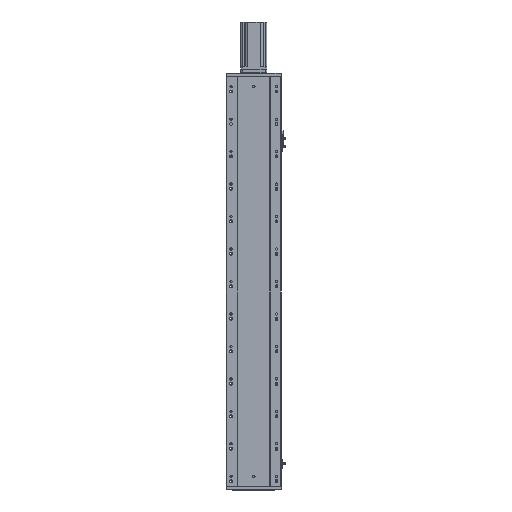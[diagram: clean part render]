
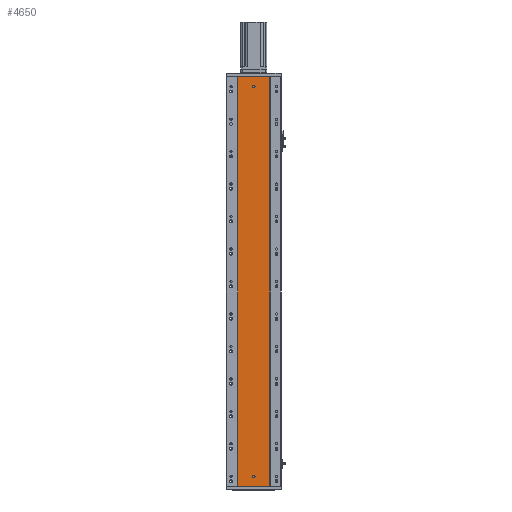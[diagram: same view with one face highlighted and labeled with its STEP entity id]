
A CAD part, front view. The second image highlights one B-rep face of the part: STEP entity #4650.
In plain terms, the highlighted planar face has unit normal (0, -1, 0).
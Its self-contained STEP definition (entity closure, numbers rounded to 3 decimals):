
#2745 = VERTEX_POINT ( 'NONE', #76845 ) ;
#3261 = CARTESIAN_POINT ( 'NONE',  ( 86.97, 79.476, 1260. ) ) ;
#3300 = CARTESIAN_POINT ( 'NONE',  ( 0., 79.476, 1260. ) ) ;
#3871 = FACE_BOUND ( 'NONE', #66117, .T. ) ;
#4146 = PLANE ( 'NONE',  #13286 ) ;
#4294 = CIRCLE ( 'NONE', #6894, 4. ) ;
#4569 = CARTESIAN_POINT ( 'NONE',  ( 136.47, 79.476, 1230. ) ) ;
#4650 = ADVANCED_FACE ( 'NONE', ( #30077, #3871, #28218 ), #4146, .F. ) ;
#5230 = DIRECTION ( 'NONE',  ( 0., 0., -1. ) ) ;
#5737 = VERTEX_POINT ( 'NONE', #62384 ) ;
#6894 = AXIS2_PLACEMENT_3D ( 'NONE', #4569, #53346, #17546 ) ;
#8898 = CARTESIAN_POINT ( 'NONE',  ( 185.97, 79.476, 1260. ) ) ;
#10170 = B_SPLINE_CURVE_WITH_KNOTS ( 'NONE', 3,
 ( #3261, #15177, #57009, #21213 ),
 .UNSPECIFIED., .F., .F.,
 ( 4, 4 ),
 ( 0., 1. ),
 .UNSPECIFIED. ) ;
#10299 = VERTEX_POINT ( 'NONE', #30842 ) ;
#10937 = VERTEX_POINT ( 'NONE', #38792 ) ;
#11414 = VERTEX_POINT ( 'NONE', #49694 ) ;
#11542 = CIRCLE ( 'NONE', #12904, 4. ) ;
#12321 = CIRCLE ( 'NONE', #36816, 4. ) ;
#12904 = AXIS2_PLACEMENT_3D ( 'NONE', #35477, #70953, #5230 ) ;
#13286 = AXIS2_PLACEMENT_3D ( 'NONE', #45187, #50878, #20816 ) ;
#14093 = ORIENTED_EDGE ( 'NONE', *, *, #37556, .F. ) ;
#15177 = CARTESIAN_POINT ( 'NONE',  ( 86.97, 79.476, 840. ) ) ;
#15286 = AXIS2_PLACEMENT_3D ( 'NONE', #71986, #24529, #36280 ) ;
#16599 = EDGE_CURVE ( 'NONE', #27109, #2745, #4294, .T. ) ;
#17546 = DIRECTION ( 'NONE',  ( 0., 0., -1. ) ) ;
#18337 = DIRECTION ( 'NONE',  ( 0., -1., 0. ) ) ;
#18852 = ORIENTED_EDGE ( 'NONE', *, *, #20192, .F. ) ;
#19764 = EDGE_LOOP ( 'NONE', ( #26753, #18852, #30785, #57829 ) ) ;
#20192 = EDGE_CURVE ( 'NONE', #10937, #53293, #40108, .T. ) ;
#20816 = DIRECTION ( 'NONE',  ( 0., 0., 1. ) ) ;
#21213 = CARTESIAN_POINT ( 'NONE',  ( 86.97, 79.476, 0. ) ) ;
#22703 = ORIENTED_EDGE ( 'NONE', *, *, #27080, .F. ) ;
#23423 = VECTOR ( 'NONE', #73498, 1000. ) ;
#23859 = EDGE_CURVE ( 'NONE', #10299, #10937, #58838, .T. ) ;
#24529 = DIRECTION ( 'NONE',  ( 0., -1., 0. ) ) ;
#25279 = EDGE_LOOP ( 'NONE', ( #14093, #51770 ) ) ;
#26753 = ORIENTED_EDGE ( 'NONE', *, *, #77381, .T. ) ;
#27080 = EDGE_CURVE ( 'NONE', #5737, #49287, #42295, .T. ) ;
#27109 = VERTEX_POINT ( 'NONE', #55843 ) ;
#28218 = FACE_OUTER_BOUND ( 'NONE', #19764, .T. ) ;
#30077 = FACE_BOUND ( 'NONE', #25279, .T. ) ;
#30785 = ORIENTED_EDGE ( 'NONE', *, *, #23859, .F. ) ;
#30842 = CARTESIAN_POINT ( 'NONE',  ( 86.97, 79.476, 1260. ) ) ;
#31642 = CARTESIAN_POINT ( 'NONE',  ( 185.97, 79.476, 840. ) ) ;
#32276 = ORIENTED_EDGE ( 'NONE', *, *, #70862, .F. ) ;
#32706 = VECTOR ( 'NONE', #58315, 1000. ) ;
#35477 = CARTESIAN_POINT ( 'NONE',  ( 136.47, 79.476, 1230. ) ) ;
#35858 = DIRECTION ( 'NONE',  ( 0., 0., -1. ) ) ;
#36280 = DIRECTION ( 'NONE',  ( 0., 0., -1. ) ) ;
#36816 = AXIS2_PLACEMENT_3D ( 'NONE', #71581, #18337, #35858 ) ;
#37556 = EDGE_CURVE ( 'NONE', #2745, #27109, #11542, .T. ) ;
#38792 = CARTESIAN_POINT ( 'NONE',  ( 185.97, 79.476, 1260. ) ) ;
#38943 = CARTESIAN_POINT ( 'NONE',  ( 136.47, 79.476, 26. ) ) ;
#40108 = B_SPLINE_CURVE_WITH_KNOTS ( 'NONE', 3,
 ( #8898, #31642, #73584, #43709 ),
 .UNSPECIFIED., .F., .F.,
 ( 4, 4 ),
 ( 0., 1. ),
 .UNSPECIFIED. ) ;
#42295 = CIRCLE ( 'NONE', #15286, 4. ) ;
#43709 = CARTESIAN_POINT ( 'NONE',  ( 185.97, 79.476, 0. ) ) ;
#44103 = CARTESIAN_POINT ( 'NONE',  ( 0., 79.476, 0. ) ) ;
#45187 = CARTESIAN_POINT ( 'NONE',  ( 0., 79.476, 1260. ) ) ;
#45997 = LINE ( 'NONE', #44103, #23423 ) ;
#49287 = VERTEX_POINT ( 'NONE', #38943 ) ;
#49694 = CARTESIAN_POINT ( 'NONE',  ( 86.97, 79.476, 0. ) ) ;
#50407 = CARTESIAN_POINT ( 'NONE',  ( 185.97, 79.476, 0. ) ) ;
#50878 = DIRECTION ( 'NONE',  ( 0., 1., 0. ) ) ;
#51770 = ORIENTED_EDGE ( 'NONE', *, *, #16599, .F. ) ;
#53293 = VERTEX_POINT ( 'NONE', #50407 ) ;
#53346 = DIRECTION ( 'NONE',  ( 0., -1., 0. ) ) ;
#55843 = CARTESIAN_POINT ( 'NONE',  ( 136.47, 79.476, 1234. ) ) ;
#57009 = CARTESIAN_POINT ( 'NONE',  ( 86.97, 79.476, 420. ) ) ;
#57829 = ORIENTED_EDGE ( 'NONE', *, *, #60200, .T. ) ;
#58315 = DIRECTION ( 'NONE',  ( 1., 0., 0. ) ) ;
#58838 = LINE ( 'NONE', #3300, #32706 ) ;
#60200 = EDGE_CURVE ( 'NONE', #10299, #11414, #10170, .T. ) ;
#62384 = CARTESIAN_POINT ( 'NONE',  ( 136.47, 79.476, 34. ) ) ;
#66117 = EDGE_LOOP ( 'NONE', ( #32276, #22703 ) ) ;
#70862 = EDGE_CURVE ( 'NONE', #49287, #5737, #12321, .T. ) ;
#70953 = DIRECTION ( 'NONE',  ( 0., -1., 0. ) ) ;
#71581 = CARTESIAN_POINT ( 'NONE',  ( 136.47, 79.476, 30. ) ) ;
#71986 = CARTESIAN_POINT ( 'NONE',  ( 136.47, 79.476, 30. ) ) ;
#73498 = DIRECTION ( 'NONE',  ( 1., 0., 0. ) ) ;
#73584 = CARTESIAN_POINT ( 'NONE',  ( 185.97, 79.476, 420. ) ) ;
#76845 = CARTESIAN_POINT ( 'NONE',  ( 136.47, 79.476, 1226. ) ) ;
#77381 = EDGE_CURVE ( 'NONE', #11414, #53293, #45997, .T. ) ;
